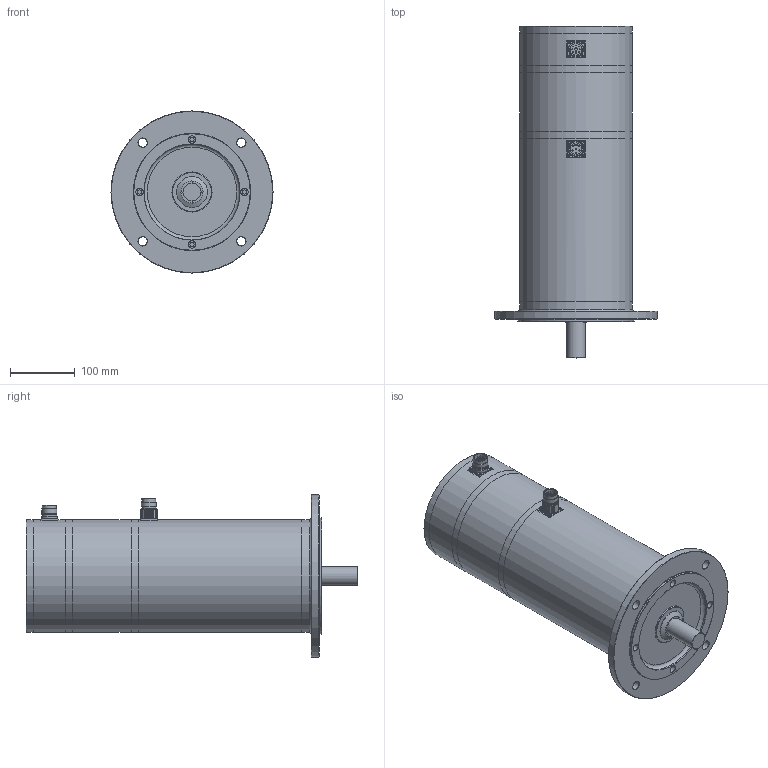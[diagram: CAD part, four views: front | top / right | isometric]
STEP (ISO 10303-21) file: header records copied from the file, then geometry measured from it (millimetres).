
FILE_DESCRIPTION(/* description */ (''),/* implementation_level */ '2;1');
FILE_NAME(/* name */ 'ksa_8x12e_mc_ixx',/* time_stamp */ '2007-03-14T10:35:26+01:00',/* author */ (''),/* organization */ (''),/* preprocessor_version */ 'ST-DEVELOPER v8',/* originating_system */ 'UNIGRAPHICS SOLUTIONS - UNIGRAPHICS 18.0',/* authorisation */ '');
FILE_SCHEMA (('AUTOMOTIVE_DESIGN { 1 2 10303 214 0 1 1 1 }'));
Length unit declared in the file: millimetre
Products named in the file (12): 014261_0; 064305_0; 089286_0; 089285_0; 118030_0; 014260_0; 06331401_0; DIN3760_org_A30x42x7_0; Rotor_SA 84.. E_0; Gehaeuse SA 84.. E_0; 118025_0; KSA8412_E-MC-I27_0
Assembly tree (12 placements, depth 2):
  KSA8412_E-MC-I27_0
    118025_0
    Gehaeuse SA 84.. E_0
    Rotor_SA 84.. E_0
    DIN3760_org_A30x42x7_0
    06331401_0
    014260_0
    118030_0  x2
    089285_0
    089286_0
    064305_0
    014261_0
Bounding box: 250 x 512 x 250 mm (x, y, z)
Volume: 3959254.9 mm3; surface area: 762694.1 mm2
Topology: 12 solids, 12 shells, 298 faces, 728 edges, 463 vertices
Faces by surface type: cylinder 146, plane 81, cone 33, sphere 20, torus 18
Full cylindrical faces by diameter (mm): 1 x16, 2 x4, 2.7 x8, 6.4 x4, 11 x4, 14 x4, 18 x2, 20 x4, 21 x2, 21.5 x2, 23 x4, 24 x1, 27.52 x1, 27.9 x1, 28 x1, 30 x2, 30.3 x1, 38 x1, 39 x1, 42 x2, 48 x1, 56 x1, 60 x1, 62 x1, 140 x1, 148 x1, 150 x2, 151 x2, 174 x7, 180 x1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
Entity records: 7708 total; most frequent: DIRECTION 1438, CARTESIAN_POINT 1228, ORIENTED_EDGE 940, AXIS2_PLACEMENT_3D 662, EDGE_LOOP 530, EDGE_CURVE 470, VERTEX_POINT 384, CIRCLE 354
